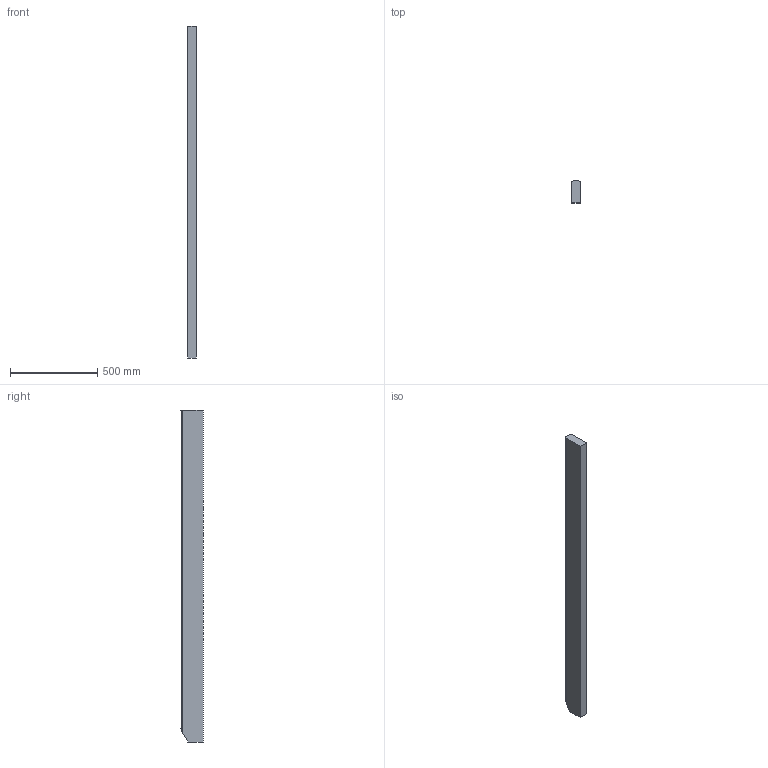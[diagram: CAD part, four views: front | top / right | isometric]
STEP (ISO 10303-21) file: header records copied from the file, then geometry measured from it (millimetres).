
FILE_DESCRIPTION (( 'STEP AP203' ), '1' );
FILE_NAME ('StraightSides2inHead.STEP', '2024-03-21T21:03:12', ( '' ), ( '' ), 'SwSTEP 2.0', 'SolidWorks 2021', '' );
FILE_SCHEMA (( 'CONFIG_CONTROL_DESIGN' ));
Length unit declared in the file: inch
Products named in the file (1): StraightSides2inHead
Bounding box: 50.8 x 126.46 x 1905 mm (x, y, z)
Volume: 12005839.4 mm3; surface area: 662253.1 mm2
Topology: 1 solids, 1 shells, 14 faces, 37 edges, 25 vertices
Faces by surface type: cylinder 8, plane 6
Entity records: 537 total; most frequent: CARTESIAN_POINT 123, ORIENTED_EDGE 74, DIRECTION 64, EDGE_CURVE 37, VERTEX_POINT 25, AXIS2_PLACEMENT_3D 22, VECTOR 20, LINE 20
